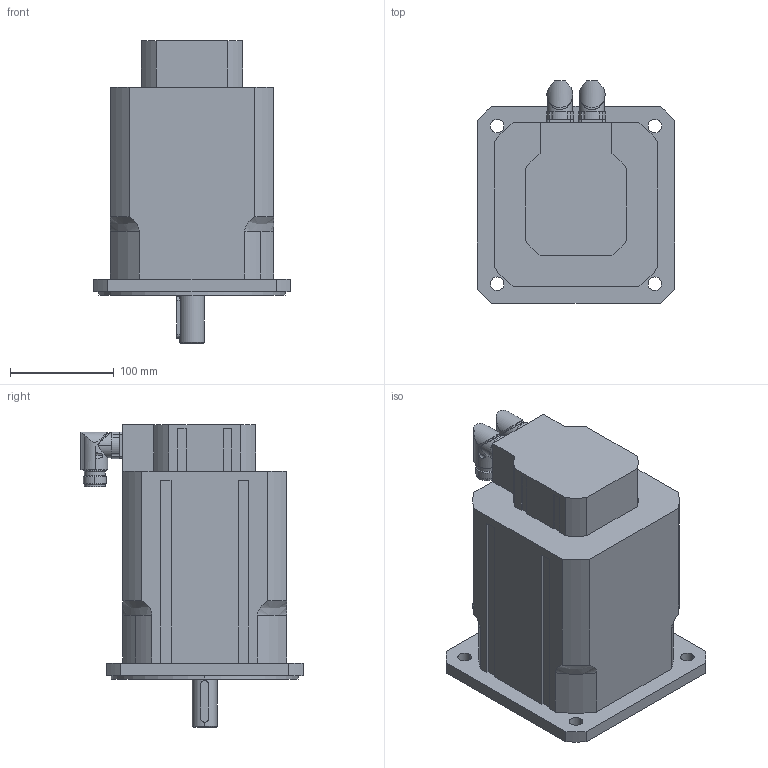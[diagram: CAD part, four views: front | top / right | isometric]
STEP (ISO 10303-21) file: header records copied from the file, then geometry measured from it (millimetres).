
FILE_DESCRIPTION(('STEP AP203'),'2;1');
FILE_NAME('MT6-1900.stp','2006-08-28T20:24:39',(''),(''),'2005.2.102','THINKDESIGN','');
FILE_SCHEMA(('CONFIG_CONTROL_DESIGN'));
Length unit declared in the file: millimetre
Bounding box: 190 x 214.5 x 292 mm (x, y, z)
Volume: 5473588.8 mm3; surface area: 239371.8 mm2
Topology: 3 solids, 3 shells, 258 faces, 685 edges, 443 vertices
Faces by surface type: cylinder 112, plane 108, bspline 38
Full cylindrical faces by diameter (mm): 20 x2
Entity records: 9380 total; most frequent: CARTESIAN_POINT 2860, ORIENTED_EDGE 1366, DIRECTION 1343, EDGE_CURVE 683, AXIS2_PLACEMENT_3D 500, VERTEX_POINT 443, VECTOR 343, LINE 343
